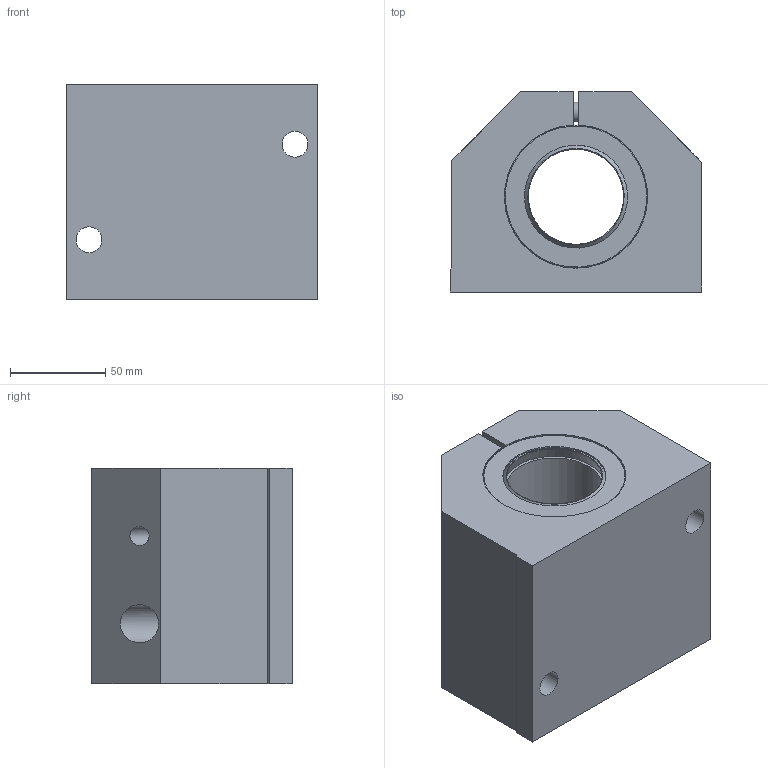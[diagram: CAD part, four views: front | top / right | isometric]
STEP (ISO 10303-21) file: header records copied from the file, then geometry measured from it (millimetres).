
FILE_DESCRIPTION(('STEP AP203'),'1');
FILE_NAME('//192.168.1.1/share/s-4 技術開発/s-4-4_CAD/s-4-4-3_見直し済み/008 修正済み/SLS(済)/SLS_TOP/SLS-50.step','2022-03-09T07:10:22',(' '),(' '),'Spatial InterOp 3D',' ',' ');
FILE_SCHEMA(('CONFIG_CONTROL_DESIGN'));
Length unit declared in the file: millimetre
Products named in the file (1): 1
Bounding box: 132 x 105 x 113 mm (x, y, z)
Volume: 1125913.6 mm3; surface area: 113625.9 mm2
Topology: 1 solids, 1 shells, 91 faces, 206 edges, 129 vertices
Faces by surface type: plane 41, cylinder 33, cone 9, torus 8
Full cylindrical faces by diameter (mm): 7 x2, 10 x4, 11 x1, 13.5 x4, 16 x1, 18 x1, 20 x2, 50 x3, 54 x2, 71.5 x2
Entity records: 2328 total; most frequent: DIRECTION 414, CARTESIAN_POINT 394, ORIENTED_EDGE 304, AXIS2_PLACEMENT_3D 171, EDGE_LOOP 158, EDGE_CURVE 152, FACE_OUTER_BOUND 121, VERTEX_POINT 117
